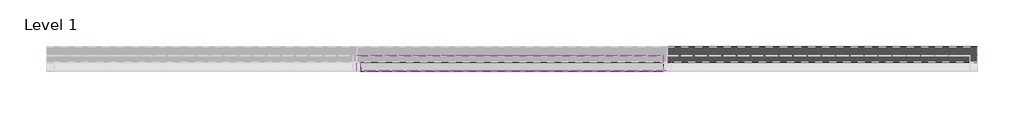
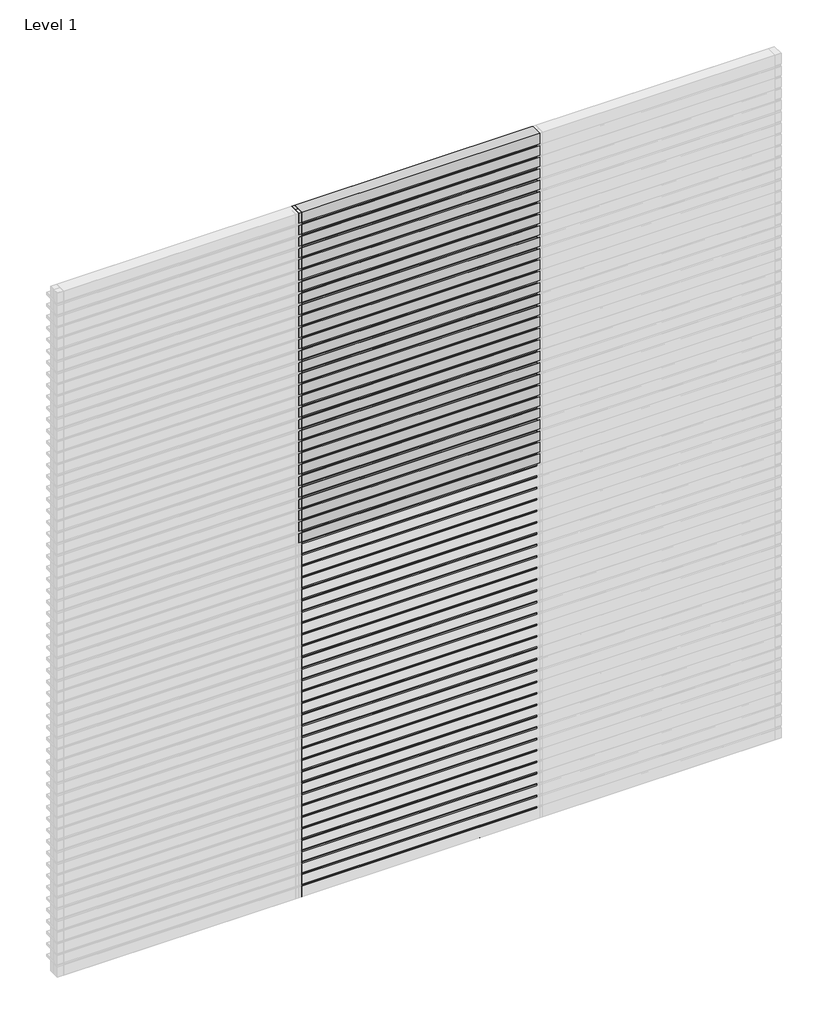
# One storey, part 4 of 6: 89 plates, 39 members.
"""IFC4 building model written with IfcOpenShell, lengths in millimetres."""

from ifc_helpers import new_model, si_unit, origin, place, context, project, spatial, transform, mapped, element, save
from components import rectangular_mullion_30cdfca6, empty_system_panel_empty_51cbbd14, empty_system_panel_empty_86242385, empty_system_panel_empty_f44495d2

model = new_model("IFC4")

# Units and contexts
model_context = context("Model", 3, world=origin())
ifc_project = project(units=[si_unit("LENGTHUNIT", "METRE", prefix="MILLI")], contexts=[model_context])

# Site, building, storey
site = spatial("IfcSite", under=ifc_project)
building = spatial("IfcBuilding", under=site)
storey = spatial("IfcBuildingStorey", under=building, Name="Level 1", Elevation=0.0)

# Members
placement = place(None, origin())
rectangular_mullion_shape = rectangular_mullion_30cdfca6(model_context)
element("IfcMember", 1, ObjectType="Rectangular Mullion : RSen_21_CWM_blade - cubic 100 - 0°_gen_duco projects", at=placement, inside=storey, context=model_context, shape_type="MappedRepresentation", body=[
    mapped(rectangular_mullion_shape, transform((4000.0, 3000.0, 100.0), x_axis=(0.0, 0.0, 1.0), y_axis=(0.0, 1.0, 0.0), z_axis=(-1.0, 0.0, 0.0))),
])
element("IfcMember", 2, ObjectType="Rectangular Mullion : RSen_21_CWM_blade - cubic 100 - 0°_gen_duco projects", at=placement, inside=storey, context=model_context, shape_type="MappedRepresentation", body=[
    mapped(rectangular_mullion_shape, transform((4000.0, 3000.0, 200.0), x_axis=(0.0, 0.0, 1.0), y_axis=(0.0, 1.0, 0.0), z_axis=(-1.0, 0.0, 0.0))),
])
element("IfcMember", 3, ObjectType="Rectangular Mullion : RSen_21_CWM_blade - cubic 100 - 0°_gen_duco projects", at=placement, inside=storey, context=model_context, shape_type="MappedRepresentation", body=[
    mapped(rectangular_mullion_shape, transform((4000.0, 3000.0, 300.0), x_axis=(0.0, 0.0, 1.0), y_axis=(0.0, 1.0, 0.0), z_axis=(-1.0, 0.0, 0.0))),
])
element("IfcMember", 4, ObjectType="Rectangular Mullion : RSen_21_CWM_blade - cubic 100 - 0°_gen_duco projects", at=placement, inside=storey, context=model_context, shape_type="MappedRepresentation", body=[
    mapped(rectangular_mullion_shape, transform((4000.0, 3000.0, 400.0), x_axis=(0.0, 0.0, 1.0), y_axis=(0.0, 1.0, 0.0), z_axis=(-1.0, 0.0, 0.0))),
])
element("IfcMember", 5, ObjectType="Rectangular Mullion : RSen_21_CWM_blade - cubic 100 - 0°_gen_duco projects", at=placement, inside=storey, context=model_context, shape_type="MappedRepresentation", body=[
    mapped(rectangular_mullion_shape, transform((4000.0, 3000.0, 500.0), x_axis=(0.0, 0.0, 1.0), y_axis=(0.0, 1.0, 0.0), z_axis=(-1.0, 0.0, 0.0))),
])
element("IfcMember", 6, ObjectType="Rectangular Mullion : RSen_21_CWM_blade - cubic 100 - 0°_gen_duco projects", at=placement, inside=storey, context=model_context, shape_type="MappedRepresentation", body=[
    mapped(rectangular_mullion_shape, transform((4000.0, 3000.0, 600.0), x_axis=(0.0, 0.0, 1.0), y_axis=(0.0, 1.0, 0.0), z_axis=(-1.0, 0.0, 0.0))),
])
element("IfcMember", 7, ObjectType="Rectangular Mullion : RSen_21_CWM_blade - cubic 100 - 0°_gen_duco projects", at=placement, inside=storey, context=model_context, shape_type="MappedRepresentation", body=[
    mapped(rectangular_mullion_shape, transform((4000.0, 3000.0, 700.0), x_axis=(0.0, 0.0, 1.0), y_axis=(0.0, 1.0, 0.0), z_axis=(-1.0, 0.0, 0.0))),
])
element("IfcMember", 8, ObjectType="Rectangular Mullion : RSen_21_CWM_blade - cubic 100 - 0°_gen_duco projects", at=placement, inside=storey, context=model_context, shape_type="MappedRepresentation", body=[
    mapped(rectangular_mullion_shape, transform((4000.0, 3000.0, 800.0), x_axis=(0.0, 0.0, 1.0), y_axis=(0.0, 1.0, 0.0), z_axis=(-1.0, 0.0, 0.0))),
])
element("IfcMember", 9, ObjectType="Rectangular Mullion : RSen_21_CWM_blade - cubic 100 - 0°_gen_duco projects", at=placement, inside=storey, context=model_context, shape_type="MappedRepresentation", body=[
    mapped(rectangular_mullion_shape, transform((4000.0, 3000.0, 900.0), x_axis=(0.0, 0.0, 1.0), y_axis=(0.0, 1.0, 0.0), z_axis=(-1.0, 0.0, 0.0))),
])
element("IfcMember", 10, ObjectType="Rectangular Mullion : RSen_21_CWM_blade - cubic 100 - 0°_gen_duco projects", at=placement, inside=storey, context=model_context, shape_type="MappedRepresentation", body=[
    mapped(rectangular_mullion_shape, transform((4000.0, 3000.0, 1000.0), x_axis=(0.0, 0.0, 1.0), y_axis=(0.0, 1.0, 0.0), z_axis=(-1.0, 0.0, 0.0))),
])
element("IfcMember", 11, ObjectType="Rectangular Mullion : RSen_21_CWM_blade - cubic 100 - 0°_gen_duco projects", at=placement, inside=storey, context=model_context, shape_type="MappedRepresentation", body=[
    mapped(rectangular_mullion_shape, transform((4000.0, 3000.0, 1100.0), x_axis=(0.0, 0.0, 1.0), y_axis=(0.0, 1.0, 0.0), z_axis=(-1.0, 0.0, 0.0))),
])
element("IfcMember", 12, ObjectType="Rectangular Mullion : RSen_21_CWM_blade - cubic 100 - 0°_gen_duco projects", at=placement, inside=storey, context=model_context, shape_type="MappedRepresentation", body=[
    mapped(rectangular_mullion_shape, transform((4000.0, 3000.0, 1200.0), x_axis=(0.0, 0.0, 1.0), y_axis=(0.0, 1.0, 0.0), z_axis=(-1.0, 0.0, 0.0))),
])
element("IfcMember", 13, ObjectType="Rectangular Mullion : RSen_21_CWM_blade - cubic 100 - 0°_gen_duco projects", at=placement, inside=storey, context=model_context, shape_type="MappedRepresentation", body=[
    mapped(rectangular_mullion_shape, transform((4000.0, 3000.0, 1300.0), x_axis=(0.0, 0.0, 1.0), y_axis=(0.0, 1.0, 0.0), z_axis=(-1.0, 0.0, 0.0))),
])
element("IfcMember", 14, ObjectType="Rectangular Mullion : RSen_21_CWM_blade - cubic 100 - 0°_gen_duco projects", at=placement, inside=storey, context=model_context, shape_type="MappedRepresentation", body=[
    mapped(rectangular_mullion_shape, transform((4000.0, 3000.0, 1400.0), x_axis=(0.0, 0.0, 1.0), y_axis=(0.0, 1.0, 0.0), z_axis=(-1.0, 0.0, 0.0))),
])
element("IfcMember", 15, ObjectType="Rectangular Mullion : RSen_21_CWM_blade - cubic 100 - 0°_gen_duco projects", at=placement, inside=storey, context=model_context, shape_type="MappedRepresentation", body=[
    mapped(rectangular_mullion_shape, transform((4000.0, 3000.0, 1500.0), x_axis=(0.0, 0.0, 1.0), y_axis=(0.0, 1.0, 0.0), z_axis=(-1.0, 0.0, 0.0))),
])
element("IfcMember", 16, ObjectType="Rectangular Mullion : RSen_21_CWM_blade - cubic 100 - 0°_gen_duco projects", at=placement, inside=storey, context=model_context, shape_type="MappedRepresentation", body=[
    mapped(rectangular_mullion_shape, transform((4000.0, 3000.0, 1600.0), x_axis=(0.0, 0.0, 1.0), y_axis=(0.0, 1.0, 0.0), z_axis=(-1.0, 0.0, 0.0))),
])
element("IfcMember", 17, ObjectType="Rectangular Mullion : RSen_21_CWM_blade - cubic 100 - 0°_gen_duco projects", at=placement, inside=storey, context=model_context, shape_type="MappedRepresentation", body=[
    mapped(rectangular_mullion_shape, transform((4000.0, 3000.0, 1700.0), x_axis=(0.0, 0.0, 1.0), y_axis=(0.0, 1.0, 0.0), z_axis=(-1.0, 0.0, 0.0))),
])
element("IfcMember", 18, ObjectType="Rectangular Mullion : RSen_21_CWM_blade - cubic 100 - 0°_gen_duco projects", at=placement, inside=storey, context=model_context, shape_type="MappedRepresentation", body=[
    mapped(rectangular_mullion_shape, transform((4000.0, 3000.0, 1800.0), x_axis=(0.0, 0.0, 1.0), y_axis=(0.0, 1.0, 0.0), z_axis=(-1.0, 0.0, 0.0))),
])
element("IfcMember", 19, ObjectType="Rectangular Mullion : RSen_21_CWM_blade - cubic 100 - 0°_gen_duco projects", at=placement, inside=storey, context=model_context, shape_type="MappedRepresentation", body=[
    mapped(rectangular_mullion_shape, transform((4000.0, 3000.0, 1900.0), x_axis=(0.0, 0.0, 1.0), y_axis=(0.0, 1.0, 0.0), z_axis=(-1.0, 0.0, 0.0))),
])
element("IfcMember", 20, ObjectType="Rectangular Mullion : RSen_21_CWM_blade - cubic 100 - 0°_gen_duco projects", at=placement, inside=storey, context=model_context, shape_type="MappedRepresentation", body=[
    mapped(rectangular_mullion_shape, transform((4000.0, 3000.0, 2000.0), x_axis=(0.0, 0.0, 1.0), y_axis=(0.0, 1.0, 0.0), z_axis=(-1.0, 0.0, 0.0))),
])
element("IfcMember", 21, ObjectType="Rectangular Mullion : RSen_21_CWM_blade - cubic 100 - 0°_gen_duco projects", at=placement, inside=storey, context=model_context, shape_type="MappedRepresentation", body=[
    mapped(rectangular_mullion_shape, transform((4000.0, 3000.0, 2100.0), x_axis=(0.0, 0.0, 1.0), y_axis=(0.0, 1.0, 0.0), z_axis=(-1.0, 0.0, 0.0))),
])
element("IfcMember", 22, ObjectType="Rectangular Mullion : RSen_21_CWM_blade - cubic 100 - 0°_gen_duco projects", at=placement, inside=storey, context=model_context, shape_type="MappedRepresentation", body=[
    mapped(rectangular_mullion_shape, transform((4000.0, 3000.0, 2200.0), x_axis=(0.0, 0.0, 1.0), y_axis=(0.0, 1.0, 0.0), z_axis=(-1.0, 0.0, 0.0))),
])
element("IfcMember", 23, ObjectType="Rectangular Mullion : RSen_21_CWM_blade - cubic 100 - 0°_gen_duco projects", at=placement, inside=storey, context=model_context, shape_type="MappedRepresentation", body=[
    mapped(rectangular_mullion_shape, transform((4000.0, 3000.0, 2300.0), x_axis=(0.0, 0.0, 1.0), y_axis=(0.0, 1.0, 0.0), z_axis=(-1.0, 0.0, 0.0))),
])
element("IfcMember", 24, ObjectType="Rectangular Mullion : RSen_21_CWM_blade - cubic 100 - 0°_gen_duco projects", at=placement, inside=storey, context=model_context, shape_type="MappedRepresentation", body=[
    mapped(rectangular_mullion_shape, transform((4000.0, 3000.0, 2400.0), x_axis=(0.0, 0.0, 1.0), y_axis=(0.0, 1.0, 0.0), z_axis=(-1.0, 0.0, 0.0))),
])
element("IfcMember", 25, ObjectType="Rectangular Mullion : RSen_21_CWM_blade - cubic 100 - 0°_gen_duco projects", at=placement, inside=storey, context=model_context, shape_type="MappedRepresentation", body=[
    mapped(rectangular_mullion_shape, transform((4000.0, 3000.0, 2500.0), x_axis=(0.0, 0.0, 1.0), y_axis=(0.0, 1.0, 0.0), z_axis=(-1.0, 0.0, 0.0))),
])
element("IfcMember", 26, ObjectType="Rectangular Mullion : RSen_21_CWM_blade - cubic 100 - 0°_gen_duco projects", at=placement, inside=storey, context=model_context, shape_type="MappedRepresentation", body=[
    mapped(rectangular_mullion_shape, transform((4000.0, 3000.0, 2600.0), x_axis=(0.0, 0.0, 1.0), y_axis=(0.0, 1.0, 0.0), z_axis=(-1.0, 0.0, 0.0))),
])
element("IfcMember", 27, ObjectType="Rectangular Mullion : RSen_21_CWM_blade - cubic 100 - 0°_gen_duco projects", at=placement, inside=storey, context=model_context, shape_type="MappedRepresentation", body=[
    mapped(rectangular_mullion_shape, transform((4000.0, 3000.0, 2700.0), x_axis=(0.0, 0.0, 1.0), y_axis=(0.0, 1.0, 0.0), z_axis=(-1.0, 0.0, 0.0))),
])
element("IfcMember", 28, ObjectType="Rectangular Mullion : RSen_21_CWM_blade - cubic 100 - 0°_gen_duco projects", at=placement, inside=storey, context=model_context, shape_type="MappedRepresentation", body=[
    mapped(rectangular_mullion_shape, transform((4000.0, 3000.0, 2800.0), x_axis=(0.0, 0.0, 1.0), y_axis=(0.0, 1.0, 0.0), z_axis=(-1.0, 0.0, 0.0))),
])
element("IfcMember", 29, ObjectType="Rectangular Mullion : RSen_21_CWM_blade - cubic 100 - 0°_gen_duco projects", at=placement, inside=storey, context=model_context, shape_type="MappedRepresentation", body=[
    mapped(rectangular_mullion_shape, transform((4000.0, 3000.0, 2900.0), x_axis=(0.0, 0.0, 1.0), y_axis=(0.0, 1.0, 0.0), z_axis=(-1.0, 0.0, 0.0))),
])
element("IfcMember", 30, ObjectType="Rectangular Mullion : RSen_21_CWM_blade - cubic 100 - 0°_gen_duco projects", at=placement, inside=storey, context=model_context, shape_type="MappedRepresentation", body=[
    mapped(rectangular_mullion_shape, transform((4000.0, 3000.0, 3000.0), x_axis=(0.0, 0.0, 1.0), y_axis=(0.0, 1.0, 0.0), z_axis=(-1.0, 0.0, 0.0))),
])
element("IfcMember", 31, ObjectType="Rectangular Mullion : RSen_21_CWM_blade - cubic 100 - 0°_gen_duco projects", at=placement, inside=storey, context=model_context, shape_type="MappedRepresentation", body=[
    mapped(rectangular_mullion_shape, transform((4000.0, 3000.0, 3100.0), x_axis=(0.0, 0.0, 1.0), y_axis=(0.0, 1.0, 0.0), z_axis=(-1.0, 0.0, 0.0))),
])
element("IfcMember", 32, ObjectType="Rectangular Mullion : RSen_21_CWM_blade - cubic 100 - 0°_gen_duco projects", at=placement, inside=storey, context=model_context, shape_type="MappedRepresentation", body=[
    mapped(rectangular_mullion_shape, transform((4000.0, 3000.0, 3200.0), x_axis=(0.0, 0.0, 1.0), y_axis=(0.0, 1.0, 0.0), z_axis=(-1.0, 0.0, 0.0))),
])
element("IfcMember", 33, ObjectType="Rectangular Mullion : RSen_21_CWM_blade - cubic 100 - 0°_gen_duco projects", at=placement, inside=storey, context=model_context, shape_type="MappedRepresentation", body=[
    mapped(rectangular_mullion_shape, transform((4000.0, 3000.0, 3300.0), x_axis=(0.0, 0.0, 1.0), y_axis=(0.0, 1.0, 0.0), z_axis=(-1.0, 0.0, 0.0))),
])
element("IfcMember", 34, ObjectType="Rectangular Mullion : RSen_21_CWM_blade - cubic 100 - 0°_gen_duco projects", at=placement, inside=storey, context=model_context, shape_type="MappedRepresentation", body=[
    mapped(rectangular_mullion_shape, transform((4000.0, 3000.0, 3400.0), x_axis=(0.0, 0.0, 1.0), y_axis=(0.0, 1.0, 0.0), z_axis=(-1.0, 0.0, 0.0))),
])
element("IfcMember", 35, ObjectType="Rectangular Mullion : RSen_21_CWM_blade - cubic 100 - 0°_gen_duco projects", at=placement, inside=storey, context=model_context, shape_type="MappedRepresentation", body=[
    mapped(rectangular_mullion_shape, transform((4000.0, 3000.0, 3500.0), x_axis=(0.0, 0.0, 1.0), y_axis=(0.0, 1.0, 0.0), z_axis=(-1.0, 0.0, 0.0))),
])
element("IfcMember", 36, ObjectType="Rectangular Mullion : RSen_21_CWM_blade - cubic 100 - 0°_gen_duco projects", at=placement, inside=storey, context=model_context, shape_type="MappedRepresentation", body=[
    mapped(rectangular_mullion_shape, transform((4000.0, 3000.0, 3600.0), x_axis=(0.0, 0.0, 1.0), y_axis=(0.0, 1.0, 0.0), z_axis=(-1.0, 0.0, 0.0))),
])
element("IfcMember", 37, ObjectType="Rectangular Mullion : RSen_21_CWM_blade - cubic 100 - 0°_gen_duco projects", at=placement, inside=storey, context=model_context, shape_type="MappedRepresentation", body=[
    mapped(rectangular_mullion_shape, transform((4000.0, 3000.0, 3700.0), x_axis=(0.0, 0.0, 1.0), y_axis=(0.0, 1.0, 0.0), z_axis=(-1.0, 0.0, 0.0))),
])
element("IfcMember", 38, ObjectType="Rectangular Mullion : RSen_21_CWM_blade - cubic 100 - 0°_gen_duco projects", at=placement, inside=storey, context=model_context, shape_type="MappedRepresentation", body=[
    mapped(rectangular_mullion_shape, transform((4000.0, 3000.0, 3800.0), x_axis=(0.0, 0.0, 1.0), y_axis=(0.0, 1.0, 0.0), z_axis=(-1.0, 0.0, 0.0))),
])
element("IfcMember", 39, ObjectType="Rectangular Mullion : RSen_21_CWM_blade - cubic 100 - 0°_gen_duco projects", at=placement, inside=storey, context=model_context, shape_type="MappedRepresentation", body=[
    mapped(rectangular_mullion_shape, transform((4000.0, 3000.0, 3900.0), x_axis=(0.0, 0.0, 1.0), y_axis=(0.0, 1.0, 0.0), z_axis=(-1.0, 0.0, 0.0))),
])

# Plates
empty_system_panel_empty_shape = empty_system_panel_empty_51cbbd14(model_context)
element("IfcPlate", 40, ObjectType="Empty System Panel : Empty", at=placement, inside=storey, context=model_context, shape_type="MappedRepresentation", body=[
    mapped(empty_system_panel_empty_shape, transform((3000.0, 3000.0, 5910.0), x_axis=(-1.0, 0.0, 0.0), y_axis=(0.0, -1.0, 0.0), z_axis=(0.0, 0.0, 1.0))),
])
empty_system_panel_empty_2_shape = empty_system_panel_empty_86242385(model_context)
element("IfcPlate", 41, ObjectType="Empty System Panel : Empty", at=placement, inside=storey, context=model_context, shape_type="MappedRepresentation", body=[
    mapped(empty_system_panel_empty_2_shape, transform((3000.0, 3000.0, 3110.0), x_axis=(-1.0, 0.0, 0.0), y_axis=(0.0, -1.0, 0.0), z_axis=(0.0, 0.0, 1.0))),
])
element("IfcPlate", 42, ObjectType="Empty System Panel : Empty", at=placement, inside=storey, context=model_context, shape_type="MappedRepresentation", body=[
    mapped(empty_system_panel_empty_2_shape, transform((3000.0, 3000.0, 3210.0), x_axis=(-1.0, 0.0, 0.0), y_axis=(0.0, -1.0, 0.0), z_axis=(0.0, 0.0, 1.0))),
])
element("IfcPlate", 43, ObjectType="Empty System Panel : Empty", at=placement, inside=storey, context=model_context, shape_type="MappedRepresentation", body=[
    mapped(empty_system_panel_empty_2_shape, transform((3000.0, 3000.0, 3310.0), x_axis=(-1.0, 0.0, 0.0), y_axis=(0.0, -1.0, 0.0), z_axis=(0.0, 0.0, 1.0))),
])
element("IfcPlate", 44, ObjectType="Empty System Panel : Empty", at=placement, inside=storey, context=model_context, shape_type="MappedRepresentation", body=[
    mapped(empty_system_panel_empty_2_shape, transform((3000.0, 3000.0, 3410.0), x_axis=(-1.0, 0.0, 0.0), y_axis=(0.0, -1.0, 0.0), z_axis=(0.0, 0.0, 1.0))),
])
element("IfcPlate", 45, ObjectType="Empty System Panel : Empty", at=placement, inside=storey, context=model_context, shape_type="MappedRepresentation", body=[
    mapped(empty_system_panel_empty_2_shape, transform((3000.0, 3000.0, 3510.0), x_axis=(-1.0, 0.0, 0.0), y_axis=(0.0, -1.0, 0.0), z_axis=(0.0, 0.0, 1.0))),
])
element("IfcPlate", 46, ObjectType="Empty System Panel : Empty", at=placement, inside=storey, context=model_context, shape_type="MappedRepresentation", body=[
    mapped(empty_system_panel_empty_2_shape, transform((3000.0, 3000.0, 3610.0), x_axis=(-1.0, 0.0, 0.0), y_axis=(0.0, -1.0, 0.0), z_axis=(0.0, 0.0, 1.0))),
])
element("IfcPlate", 47, ObjectType="Empty System Panel : Empty", at=placement, inside=storey, context=model_context, shape_type="MappedRepresentation", body=[
    mapped(empty_system_panel_empty_2_shape, transform((3000.0, 3000.0, 3710.0), x_axis=(-1.0, 0.0, 0.0), y_axis=(0.0, -1.0, 0.0), z_axis=(0.0, 0.0, 1.0))),
])
element("IfcPlate", 48, ObjectType="Empty System Panel : Empty", at=placement, inside=storey, context=model_context, shape_type="MappedRepresentation", body=[
    mapped(empty_system_panel_empty_2_shape, transform((3000.0, 3000.0, 3810.0), x_axis=(-1.0, 0.0, 0.0), y_axis=(0.0, -1.0, 0.0), z_axis=(0.0, 0.0, 1.0))),
])
element("IfcPlate", 49, ObjectType="Empty System Panel : Empty", at=placement, inside=storey, context=model_context, shape_type="MappedRepresentation", body=[
    mapped(empty_system_panel_empty_2_shape, transform((3000.0, 3000.0, 3910.0), x_axis=(-1.0, 0.0, 0.0), y_axis=(0.0, -1.0, 0.0), z_axis=(0.0, 0.0, 1.0))),
])
element("IfcPlate", 50, ObjectType="Empty System Panel : Empty", at=placement, inside=storey, context=model_context, shape_type="MappedRepresentation", body=[
    mapped(empty_system_panel_empty_2_shape, transform((3000.0, 3000.0, 4010.0), x_axis=(-1.0, 0.0, 0.0), y_axis=(0.0, -1.0, 0.0), z_axis=(0.0, 0.0, 1.0))),
])
element("IfcPlate", 51, ObjectType="Empty System Panel : Empty", at=placement, inside=storey, context=model_context, shape_type="MappedRepresentation", body=[
    mapped(empty_system_panel_empty_2_shape, transform((3000.0, 3000.0, 4110.0), x_axis=(-1.0, 0.0, 0.0), y_axis=(0.0, -1.0, 0.0), z_axis=(0.0, 0.0, 1.0))),
])
element("IfcPlate", 52, ObjectType="Empty System Panel : Empty", at=placement, inside=storey, context=model_context, shape_type="MappedRepresentation", body=[
    mapped(empty_system_panel_empty_2_shape, transform((3000.0, 3000.0, 4210.0), x_axis=(-1.0, 0.0, 0.0), y_axis=(0.0, -1.0, 0.0), z_axis=(0.0, 0.0, 1.0))),
])
element("IfcPlate", 53, ObjectType="Empty System Panel : Empty", at=placement, inside=storey, context=model_context, shape_type="MappedRepresentation", body=[
    mapped(empty_system_panel_empty_2_shape, transform((3000.0, 3000.0, 4310.0), x_axis=(-1.0, 0.0, 0.0), y_axis=(0.0, -1.0, 0.0), z_axis=(0.0, 0.0, 1.0))),
])
element("IfcPlate", 54, ObjectType="Empty System Panel : Empty", at=placement, inside=storey, context=model_context, shape_type="MappedRepresentation", body=[
    mapped(empty_system_panel_empty_2_shape, transform((3000.0, 3000.0, 4410.0), x_axis=(-1.0, 0.0, 0.0), y_axis=(0.0, -1.0, 0.0), z_axis=(0.0, 0.0, 1.0))),
])
element("IfcPlate", 55, ObjectType="Empty System Panel : Empty", at=placement, inside=storey, context=model_context, shape_type="MappedRepresentation", body=[
    mapped(empty_system_panel_empty_2_shape, transform((3000.0, 3000.0, 4510.0), x_axis=(-1.0, 0.0, 0.0), y_axis=(0.0, -1.0, 0.0), z_axis=(0.0, 0.0, 1.0))),
])
element("IfcPlate", 56, ObjectType="Empty System Panel : Empty", at=placement, inside=storey, context=model_context, shape_type="MappedRepresentation", body=[
    mapped(empty_system_panel_empty_2_shape, transform((3000.0, 3000.0, 4610.0), x_axis=(-1.0, 0.0, 0.0), y_axis=(0.0, -1.0, 0.0), z_axis=(0.0, 0.0, 1.0))),
])
element("IfcPlate", 57, ObjectType="Empty System Panel : Empty", at=placement, inside=storey, context=model_context, shape_type="MappedRepresentation", body=[
    mapped(empty_system_panel_empty_2_shape, transform((3000.0, 3000.0, 4710.0), x_axis=(-1.0, 0.0, 0.0), y_axis=(0.0, -1.0, 0.0), z_axis=(0.0, 0.0, 1.0))),
])
element("IfcPlate", 58, ObjectType="Empty System Panel : Empty", at=placement, inside=storey, context=model_context, shape_type="MappedRepresentation", body=[
    mapped(empty_system_panel_empty_2_shape, transform((3000.0, 3000.0, 4810.0), x_axis=(-1.0, 0.0, 0.0), y_axis=(0.0, -1.0, 0.0), z_axis=(0.0, 0.0, 1.0))),
])
element("IfcPlate", 59, ObjectType="Empty System Panel : Empty", at=placement, inside=storey, context=model_context, shape_type="MappedRepresentation", body=[
    mapped(empty_system_panel_empty_2_shape, transform((3000.0, 3000.0, 4910.0), x_axis=(-1.0, 0.0, 0.0), y_axis=(0.0, -1.0, 0.0), z_axis=(0.0, 0.0, 1.0))),
])
element("IfcPlate", 60, ObjectType="Empty System Panel : Empty", at=placement, inside=storey, context=model_context, shape_type="MappedRepresentation", body=[
    mapped(empty_system_panel_empty_2_shape, transform((3000.0, 3000.0, 5010.0), x_axis=(-1.0, 0.0, 0.0), y_axis=(0.0, -1.0, 0.0), z_axis=(0.0, 0.0, 1.0))),
])
element("IfcPlate", 61, ObjectType="Empty System Panel : Empty", at=placement, inside=storey, context=model_context, shape_type="MappedRepresentation", body=[
    mapped(empty_system_panel_empty_2_shape, transform((3000.0, 3000.0, 5110.0), x_axis=(-1.0, 0.0, 0.0), y_axis=(0.0, -1.0, 0.0), z_axis=(0.0, 0.0, 1.0))),
])
element("IfcPlate", 62, ObjectType="Empty System Panel : Empty", at=placement, inside=storey, context=model_context, shape_type="MappedRepresentation", body=[
    mapped(empty_system_panel_empty_2_shape, transform((3000.0, 3000.0, 5210.0), x_axis=(-1.0, 0.0, 0.0), y_axis=(0.0, -1.0, 0.0), z_axis=(0.0, 0.0, 1.0))),
])
element("IfcPlate", 63, ObjectType="Empty System Panel : Empty", at=placement, inside=storey, context=model_context, shape_type="MappedRepresentation", body=[
    mapped(empty_system_panel_empty_2_shape, transform((3000.0, 3000.0, 5310.0), x_axis=(-1.0, 0.0, 0.0), y_axis=(0.0, -1.0, 0.0), z_axis=(0.0, 0.0, 1.0))),
])
element("IfcPlate", 64, ObjectType="Empty System Panel : Empty", at=placement, inside=storey, context=model_context, shape_type="MappedRepresentation", body=[
    mapped(empty_system_panel_empty_2_shape, transform((3000.0, 3000.0, 5410.0), x_axis=(-1.0, 0.0, 0.0), y_axis=(0.0, -1.0, 0.0), z_axis=(0.0, 0.0, 1.0))),
])
element("IfcPlate", 65, ObjectType="Empty System Panel : Empty", at=placement, inside=storey, context=model_context, shape_type="MappedRepresentation", body=[
    mapped(empty_system_panel_empty_2_shape, transform((3000.0, 3000.0, 5510.0), x_axis=(-1.0, 0.0, 0.0), y_axis=(0.0, -1.0, 0.0), z_axis=(0.0, 0.0, 1.0))),
])
element("IfcPlate", 66, ObjectType="Empty System Panel : Empty", at=placement, inside=storey, context=model_context, shape_type="MappedRepresentation", body=[
    mapped(empty_system_panel_empty_2_shape, transform((3000.0, 3000.0, 5610.0), x_axis=(-1.0, 0.0, 0.0), y_axis=(0.0, -1.0, 0.0), z_axis=(0.0, 0.0, 1.0))),
])
element("IfcPlate", 67, ObjectType="Empty System Panel : Empty", at=placement, inside=storey, context=model_context, shape_type="MappedRepresentation", body=[
    mapped(empty_system_panel_empty_2_shape, transform((3000.0, 3000.0, 5710.0), x_axis=(-1.0, 0.0, 0.0), y_axis=(0.0, -1.0, 0.0), z_axis=(0.0, 0.0, 1.0))),
])
element("IfcPlate", 68, ObjectType="Empty System Panel : Empty", at=placement, inside=storey, context=model_context, shape_type="MappedRepresentation", body=[
    mapped(empty_system_panel_empty_2_shape, transform((3000.0, 3000.0, 5810.0), x_axis=(-1.0, 0.0, 0.0), y_axis=(0.0, -1.0, 0.0), z_axis=(0.0, 0.0, 1.0))),
])
empty_system_panel_empty_3_shape = empty_system_panel_empty_f44495d2(model_context)
element("IfcPlate", 69, ObjectType="Empty System Panel : Empty", at=placement, inside=storey, context=model_context, shape_type="MappedRepresentation", body=[
    mapped(empty_system_panel_empty_3_shape, transform((3000.0, 3000.0, 0.0), x_axis=(-1.0, 0.0, 0.0), y_axis=(0.0, -1.0, 0.0), z_axis=(0.0, 0.0, 1.0))),
])
element("IfcPlate", 70, ObjectType="Empty System Panel : Empty", at=placement, inside=storey, context=model_context, shape_type="MappedRepresentation", body=[
    mapped(empty_system_panel_empty_3_shape, transform((3000.0, 3000.0, 100.0), x_axis=(-1.0, 0.0, 0.0), y_axis=(0.0, -1.0, 0.0), z_axis=(0.0, 0.0, 1.0))),
])
element("IfcPlate", 71, ObjectType="Empty System Panel : Empty", at=placement, inside=storey, context=model_context, shape_type="MappedRepresentation", body=[
    mapped(empty_system_panel_empty_3_shape, transform((3000.0, 3000.0, 200.0), x_axis=(-1.0, 0.0, 0.0), y_axis=(0.0, -1.0, 0.0), z_axis=(0.0, 0.0, 1.0))),
])
element("IfcPlate", 72, ObjectType="Empty System Panel : Empty", at=placement, inside=storey, context=model_context, shape_type="MappedRepresentation", body=[
    mapped(empty_system_panel_empty_3_shape, transform((3000.0, 3000.0, 300.0), x_axis=(-1.0, 0.0, 0.0), y_axis=(0.0, -1.0, 0.0), z_axis=(0.0, 0.0, 1.0))),
])
element("IfcPlate", 73, ObjectType="Empty System Panel : Empty", at=placement, inside=storey, context=model_context, shape_type="MappedRepresentation", body=[
    mapped(empty_system_panel_empty_3_shape, transform((3000.0, 3000.0, 400.0), x_axis=(-1.0, 0.0, 0.0), y_axis=(0.0, -1.0, 0.0), z_axis=(0.0, 0.0, 1.0))),
])
element("IfcPlate", 74, ObjectType="Empty System Panel : Empty", at=placement, inside=storey, context=model_context, shape_type="MappedRepresentation", body=[
    mapped(empty_system_panel_empty_3_shape, transform((3000.0, 3000.0, 500.0), x_axis=(-1.0, 0.0, 0.0), y_axis=(0.0, -1.0, 0.0), z_axis=(0.0, 0.0, 1.0))),
])
element("IfcPlate", 75, ObjectType="Empty System Panel : Empty", at=placement, inside=storey, context=model_context, shape_type="MappedRepresentation", body=[
    mapped(empty_system_panel_empty_3_shape, transform((3000.0, 3000.0, 600.0), x_axis=(-1.0, 0.0, 0.0), y_axis=(0.0, -1.0, 0.0), z_axis=(0.0, 0.0, 1.0))),
])
element("IfcPlate", 76, ObjectType="Empty System Panel : Empty", at=placement, inside=storey, context=model_context, shape_type="MappedRepresentation", body=[
    mapped(empty_system_panel_empty_3_shape, transform((3000.0, 3000.0, 700.0), x_axis=(-1.0, 0.0, 0.0), y_axis=(0.0, -1.0, 0.0), z_axis=(0.0, 0.0, 1.0))),
])
element("IfcPlate", 77, ObjectType="Empty System Panel : Empty", at=placement, inside=storey, context=model_context, shape_type="MappedRepresentation", body=[
    mapped(empty_system_panel_empty_3_shape, transform((3000.0, 3000.0, 800.0), x_axis=(-1.0, 0.0, 0.0), y_axis=(0.0, -1.0, 0.0), z_axis=(0.0, 0.0, 1.0))),
])
element("IfcPlate", 78, ObjectType="Empty System Panel : Empty", at=placement, inside=storey, context=model_context, shape_type="MappedRepresentation", body=[
    mapped(empty_system_panel_empty_3_shape, transform((3000.0, 3000.0, 900.0), x_axis=(-1.0, 0.0, 0.0), y_axis=(0.0, -1.0, 0.0), z_axis=(0.0, 0.0, 1.0))),
])
element("IfcPlate", 79, ObjectType="Empty System Panel : Empty", at=placement, inside=storey, context=model_context, shape_type="MappedRepresentation", body=[
    mapped(empty_system_panel_empty_3_shape, transform((3000.0, 3000.0, 1000.0), x_axis=(-1.0, 0.0, 0.0), y_axis=(0.0, -1.0, 0.0), z_axis=(0.0, 0.0, 1.0))),
])
element("IfcPlate", 80, ObjectType="Empty System Panel : Empty", at=placement, inside=storey, context=model_context, shape_type="MappedRepresentation", body=[
    mapped(empty_system_panel_empty_3_shape, transform((3000.0, 3000.0, 1100.0), x_axis=(-1.0, 0.0, 0.0), y_axis=(0.0, -1.0, 0.0), z_axis=(0.0, 0.0, 1.0))),
])
element("IfcPlate", 81, ObjectType="Empty System Panel : Empty", at=placement, inside=storey, context=model_context, shape_type="MappedRepresentation", body=[
    mapped(empty_system_panel_empty_3_shape, transform((3000.0, 3000.0, 1200.0), x_axis=(-1.0, 0.0, 0.0), y_axis=(0.0, -1.0, 0.0), z_axis=(0.0, 0.0, 1.0))),
])
element("IfcPlate", 82, ObjectType="Empty System Panel : Empty", at=placement, inside=storey, context=model_context, shape_type="MappedRepresentation", body=[
    mapped(empty_system_panel_empty_3_shape, transform((3000.0, 3000.0, 1300.0), x_axis=(-1.0, 0.0, 0.0), y_axis=(0.0, -1.0, 0.0), z_axis=(0.0, 0.0, 1.0))),
])
element("IfcPlate", 83, ObjectType="Empty System Panel : Empty", at=placement, inside=storey, context=model_context, shape_type="MappedRepresentation", body=[
    mapped(empty_system_panel_empty_3_shape, transform((3000.0, 3000.0, 1400.0), x_axis=(-1.0, 0.0, 0.0), y_axis=(0.0, -1.0, 0.0), z_axis=(0.0, 0.0, 1.0))),
])
element("IfcPlate", 84, ObjectType="Empty System Panel : Empty", at=placement, inside=storey, context=model_context, shape_type="MappedRepresentation", body=[
    mapped(empty_system_panel_empty_3_shape, transform((3000.0, 3000.0, 1500.0), x_axis=(-1.0, 0.0, 0.0), y_axis=(0.0, -1.0, 0.0), z_axis=(0.0, 0.0, 1.0))),
])
element("IfcPlate", 85, ObjectType="Empty System Panel : Empty", at=placement, inside=storey, context=model_context, shape_type="MappedRepresentation", body=[
    mapped(empty_system_panel_empty_3_shape, transform((3000.0, 3000.0, 1600.0), x_axis=(-1.0, 0.0, 0.0), y_axis=(0.0, -1.0, 0.0), z_axis=(0.0, 0.0, 1.0))),
])
element("IfcPlate", 86, ObjectType="Empty System Panel : Empty", at=placement, inside=storey, context=model_context, shape_type="MappedRepresentation", body=[
    mapped(empty_system_panel_empty_3_shape, transform((3000.0, 3000.0, 1700.0), x_axis=(-1.0, 0.0, 0.0), y_axis=(0.0, -1.0, 0.0), z_axis=(0.0, 0.0, 1.0))),
])
element("IfcPlate", 87, ObjectType="Empty System Panel : Empty", at=placement, inside=storey, context=model_context, shape_type="MappedRepresentation", body=[
    mapped(empty_system_panel_empty_3_shape, transform((3000.0, 3000.0, 1800.0), x_axis=(-1.0, 0.0, 0.0), y_axis=(0.0, -1.0, 0.0), z_axis=(0.0, 0.0, 1.0))),
])
element("IfcPlate", 88, ObjectType="Empty System Panel : Empty", at=placement, inside=storey, context=model_context, shape_type="MappedRepresentation", body=[
    mapped(empty_system_panel_empty_3_shape, transform((3000.0, 3000.0, 1900.0), x_axis=(-1.0, 0.0, 0.0), y_axis=(0.0, -1.0, 0.0), z_axis=(0.0, 0.0, 1.0))),
])
element("IfcPlate", 89, ObjectType="Empty System Panel : Empty", at=placement, inside=storey, context=model_context, shape_type="MappedRepresentation", body=[
    mapped(empty_system_panel_empty_3_shape, transform((3000.0, 3000.0, 2000.0), x_axis=(-1.0, 0.0, 0.0), y_axis=(0.0, -1.0, 0.0), z_axis=(0.0, 0.0, 1.0))),
])
element("IfcPlate", 90, ObjectType="Empty System Panel : Empty", at=placement, inside=storey, context=model_context, shape_type="MappedRepresentation", body=[
    mapped(empty_system_panel_empty_3_shape, transform((3000.0, 3000.0, 2100.0), x_axis=(-1.0, 0.0, 0.0), y_axis=(0.0, -1.0, 0.0), z_axis=(0.0, 0.0, 1.0))),
])
element("IfcPlate", 91, ObjectType="Empty System Panel : Empty", at=placement, inside=storey, context=model_context, shape_type="MappedRepresentation", body=[
    mapped(empty_system_panel_empty_3_shape, transform((3000.0, 3000.0, 2200.0), x_axis=(-1.0, 0.0, 0.0), y_axis=(0.0, -1.0, 0.0), z_axis=(0.0, 0.0, 1.0))),
])
element("IfcPlate", 92, ObjectType="Empty System Panel : Empty", at=placement, inside=storey, context=model_context, shape_type="MappedRepresentation", body=[
    mapped(empty_system_panel_empty_3_shape, transform((3000.0, 3000.0, 2300.0), x_axis=(-1.0, 0.0, 0.0), y_axis=(0.0, -1.0, 0.0), z_axis=(0.0, 0.0, 1.0))),
])
element("IfcPlate", 93, ObjectType="Empty System Panel : Empty", at=placement, inside=storey, context=model_context, shape_type="MappedRepresentation", body=[
    mapped(empty_system_panel_empty_3_shape, transform((3000.0, 3000.0, 2400.0), x_axis=(-1.0, 0.0, 0.0), y_axis=(0.0, -1.0, 0.0), z_axis=(0.0, 0.0, 1.0))),
])
element("IfcPlate", 94, ObjectType="Empty System Panel : Empty", at=placement, inside=storey, context=model_context, shape_type="MappedRepresentation", body=[
    mapped(empty_system_panel_empty_3_shape, transform((3000.0, 3000.0, 2500.0), x_axis=(-1.0, 0.0, 0.0), y_axis=(0.0, -1.0, 0.0), z_axis=(0.0, 0.0, 1.0))),
])
element("IfcPlate", 95, ObjectType="Empty System Panel : Empty", at=placement, inside=storey, context=model_context, shape_type="MappedRepresentation", body=[
    mapped(empty_system_panel_empty_3_shape, transform((3000.0, 3000.0, 2600.0), x_axis=(-1.0, 0.0, 0.0), y_axis=(0.0, -1.0, 0.0), z_axis=(0.0, 0.0, 1.0))),
])
element("IfcPlate", 96, ObjectType="Empty System Panel : Empty", at=placement, inside=storey, context=model_context, shape_type="MappedRepresentation", body=[
    mapped(empty_system_panel_empty_3_shape, transform((3000.0, 3000.0, 2700.0), x_axis=(-1.0, 0.0, 0.0), y_axis=(0.0, -1.0, 0.0), z_axis=(0.0, 0.0, 1.0))),
])
element("IfcPlate", 97, ObjectType="Empty System Panel : Empty", at=placement, inside=storey, context=model_context, shape_type="MappedRepresentation", body=[
    mapped(empty_system_panel_empty_3_shape, transform((3000.0, 3000.0, 2800.0), x_axis=(-1.0, 0.0, 0.0), y_axis=(0.0, -1.0, 0.0), z_axis=(0.0, 0.0, 1.0))),
])
element("IfcPlate", 98, ObjectType="Empty System Panel : Empty", at=placement, inside=storey, context=model_context, shape_type="MappedRepresentation", body=[
    mapped(empty_system_panel_empty_3_shape, transform((3000.0, 3000.0, 2900.0), x_axis=(-1.0, 0.0, 0.0), y_axis=(0.0, -1.0, 0.0), z_axis=(0.0, 0.0, 1.0))),
])
element("IfcPlate", 99, ObjectType="Empty System Panel : Empty", at=placement, inside=storey, context=model_context, shape_type="MappedRepresentation", body=[
    mapped(empty_system_panel_empty_3_shape, transform((3000.0, 3000.0, 3000.0), x_axis=(-1.0, 0.0, 0.0), y_axis=(0.0, -1.0, 0.0), z_axis=(0.0, 0.0, 1.0))),
])
element("IfcPlate", 100, ObjectType="Empty System Panel : Empty", at=placement, inside=storey, context=model_context, shape_type="MappedRepresentation", body=[
    mapped(empty_system_panel_empty_3_shape, transform((3000.0, 3000.0, 3100.0), x_axis=(-1.0, 0.0, 0.0), y_axis=(0.0, -1.0, 0.0), z_axis=(0.0, 0.0, 1.0))),
])
element("IfcPlate", 101, ObjectType="Empty System Panel : Empty", at=placement, inside=storey, context=model_context, shape_type="MappedRepresentation", body=[
    mapped(empty_system_panel_empty_3_shape, transform((3000.0, 3000.0, 3200.0), x_axis=(-1.0, 0.0, 0.0), y_axis=(0.0, -1.0, 0.0), z_axis=(0.0, 0.0, 1.0))),
])
element("IfcPlate", 102, ObjectType="Empty System Panel : Empty", at=placement, inside=storey, context=model_context, shape_type="MappedRepresentation", body=[
    mapped(empty_system_panel_empty_3_shape, transform((3000.0, 3000.0, 3300.0), x_axis=(-1.0, 0.0, 0.0), y_axis=(0.0, -1.0, 0.0), z_axis=(0.0, 0.0, 1.0))),
])
element("IfcPlate", 103, ObjectType="Empty System Panel : Empty", at=placement, inside=storey, context=model_context, shape_type="MappedRepresentation", body=[
    mapped(empty_system_panel_empty_3_shape, transform((3000.0, 3000.0, 3400.0), x_axis=(-1.0, 0.0, 0.0), y_axis=(0.0, -1.0, 0.0), z_axis=(0.0, 0.0, 1.0))),
])
element("IfcPlate", 104, ObjectType="Empty System Panel : Empty", at=placement, inside=storey, context=model_context, shape_type="MappedRepresentation", body=[
    mapped(empty_system_panel_empty_3_shape, transform((3000.0, 3000.0, 3500.0), x_axis=(-1.0, 0.0, 0.0), y_axis=(0.0, -1.0, 0.0), z_axis=(0.0, 0.0, 1.0))),
])
element("IfcPlate", 105, ObjectType="Empty System Panel : Empty", at=placement, inside=storey, context=model_context, shape_type="MappedRepresentation", body=[
    mapped(empty_system_panel_empty_3_shape, transform((3000.0, 3000.0, 3600.0), x_axis=(-1.0, 0.0, 0.0), y_axis=(0.0, -1.0, 0.0), z_axis=(0.0, 0.0, 1.0))),
])
element("IfcPlate", 106, ObjectType="Empty System Panel : Empty", at=placement, inside=storey, context=model_context, shape_type="MappedRepresentation", body=[
    mapped(empty_system_panel_empty_3_shape, transform((3000.0, 3000.0, 3700.0), x_axis=(-1.0, 0.0, 0.0), y_axis=(0.0, -1.0, 0.0), z_axis=(0.0, 0.0, 1.0))),
])
element("IfcPlate", 107, ObjectType="Empty System Panel : Empty", at=placement, inside=storey, context=model_context, shape_type="MappedRepresentation", body=[
    mapped(empty_system_panel_empty_3_shape, transform((3000.0, 3000.0, 3800.0), x_axis=(-1.0, 0.0, 0.0), y_axis=(0.0, -1.0, 0.0), z_axis=(0.0, 0.0, 1.0))),
])
element("IfcPlate", 108, ObjectType="Empty System Panel : Empty", at=placement, inside=storey, context=model_context, shape_type="MappedRepresentation", body=[
    mapped(empty_system_panel_empty_3_shape, transform((3000.0, 3000.0, 3900.0), x_axis=(-1.0, 0.0, 0.0), y_axis=(0.0, -1.0, 0.0), z_axis=(0.0, 0.0, 1.0))),
])
element("IfcPlate", 109, ObjectType="Empty System Panel : Empty", at=placement, inside=storey, context=model_context, shape_type="MappedRepresentation", body=[
    mapped(empty_system_panel_empty_3_shape, transform((3000.0, 3000.0, 4000.0), x_axis=(-1.0, 0.0, 0.0), y_axis=(0.0, -1.0, 0.0), z_axis=(0.0, 0.0, 1.0))),
])
element("IfcPlate", 110, ObjectType="Empty System Panel : Empty", at=placement, inside=storey, context=model_context, shape_type="MappedRepresentation", body=[
    mapped(empty_system_panel_empty_3_shape, transform((3000.0, 3000.0, 4100.0), x_axis=(-1.0, 0.0, 0.0), y_axis=(0.0, -1.0, 0.0), z_axis=(0.0, 0.0, 1.0))),
])
element("IfcPlate", 111, ObjectType="Empty System Panel : Empty", at=placement, inside=storey, context=model_context, shape_type="MappedRepresentation", body=[
    mapped(empty_system_panel_empty_3_shape, transform((3000.0, 3000.0, 4200.0), x_axis=(-1.0, 0.0, 0.0), y_axis=(0.0, -1.0, 0.0), z_axis=(0.0, 0.0, 1.0))),
])
element("IfcPlate", 112, ObjectType="Empty System Panel : Empty", at=placement, inside=storey, context=model_context, shape_type="MappedRepresentation", body=[
    mapped(empty_system_panel_empty_3_shape, transform((3000.0, 3000.0, 4300.0), x_axis=(-1.0, 0.0, 0.0), y_axis=(0.0, -1.0, 0.0), z_axis=(0.0, 0.0, 1.0))),
])
element("IfcPlate", 113, ObjectType="Empty System Panel : Empty", at=placement, inside=storey, context=model_context, shape_type="MappedRepresentation", body=[
    mapped(empty_system_panel_empty_3_shape, transform((3000.0, 3000.0, 4400.0), x_axis=(-1.0, 0.0, 0.0), y_axis=(0.0, -1.0, 0.0), z_axis=(0.0, 0.0, 1.0))),
])
element("IfcPlate", 114, ObjectType="Empty System Panel : Empty", at=placement, inside=storey, context=model_context, shape_type="MappedRepresentation", body=[
    mapped(empty_system_panel_empty_3_shape, transform((3000.0, 3000.0, 4500.0), x_axis=(-1.0, 0.0, 0.0), y_axis=(0.0, -1.0, 0.0), z_axis=(0.0, 0.0, 1.0))),
])
element("IfcPlate", 115, ObjectType="Empty System Panel : Empty", at=placement, inside=storey, context=model_context, shape_type="MappedRepresentation", body=[
    mapped(empty_system_panel_empty_3_shape, transform((3000.0, 3000.0, 4600.0), x_axis=(-1.0, 0.0, 0.0), y_axis=(0.0, -1.0, 0.0), z_axis=(0.0, 0.0, 1.0))),
])
element("IfcPlate", 116, ObjectType="Empty System Panel : Empty", at=placement, inside=storey, context=model_context, shape_type="MappedRepresentation", body=[
    mapped(empty_system_panel_empty_3_shape, transform((3000.0, 3000.0, 4700.0), x_axis=(-1.0, 0.0, 0.0), y_axis=(0.0, -1.0, 0.0), z_axis=(0.0, 0.0, 1.0))),
])
element("IfcPlate", 117, ObjectType="Empty System Panel : Empty", at=placement, inside=storey, context=model_context, shape_type="MappedRepresentation", body=[
    mapped(empty_system_panel_empty_3_shape, transform((3000.0, 3000.0, 4800.0), x_axis=(-1.0, 0.0, 0.0), y_axis=(0.0, -1.0, 0.0), z_axis=(0.0, 0.0, 1.0))),
])
element("IfcPlate", 118, ObjectType="Empty System Panel : Empty", at=placement, inside=storey, context=model_context, shape_type="MappedRepresentation", body=[
    mapped(empty_system_panel_empty_3_shape, transform((3000.0, 3000.0, 4900.0), x_axis=(-1.0, 0.0, 0.0), y_axis=(0.0, -1.0, 0.0), z_axis=(0.0, 0.0, 1.0))),
])
element("IfcPlate", 119, ObjectType="Empty System Panel : Empty", at=placement, inside=storey, context=model_context, shape_type="MappedRepresentation", body=[
    mapped(empty_system_panel_empty_3_shape, transform((3000.0, 3000.0, 5000.0), x_axis=(-1.0, 0.0, 0.0), y_axis=(0.0, -1.0, 0.0), z_axis=(0.0, 0.0, 1.0))),
])
element("IfcPlate", 120, ObjectType="Empty System Panel : Empty", at=placement, inside=storey, context=model_context, shape_type="MappedRepresentation", body=[
    mapped(empty_system_panel_empty_3_shape, transform((3000.0, 3000.0, 5100.0), x_axis=(-1.0, 0.0, 0.0), y_axis=(0.0, -1.0, 0.0), z_axis=(0.0, 0.0, 1.0))),
])
element("IfcPlate", 121, ObjectType="Empty System Panel : Empty", at=placement, inside=storey, context=model_context, shape_type="MappedRepresentation", body=[
    mapped(empty_system_panel_empty_3_shape, transform((3000.0, 3000.0, 5200.0), x_axis=(-1.0, 0.0, 0.0), y_axis=(0.0, -1.0, 0.0), z_axis=(0.0, 0.0, 1.0))),
])
element("IfcPlate", 122, ObjectType="Empty System Panel : Empty", at=placement, inside=storey, context=model_context, shape_type="MappedRepresentation", body=[
    mapped(empty_system_panel_empty_3_shape, transform((3000.0, 3000.0, 5300.0), x_axis=(-1.0, 0.0, 0.0), y_axis=(0.0, -1.0, 0.0), z_axis=(0.0, 0.0, 1.0))),
])
element("IfcPlate", 123, ObjectType="Empty System Panel : Empty", at=placement, inside=storey, context=model_context, shape_type="MappedRepresentation", body=[
    mapped(empty_system_panel_empty_3_shape, transform((3000.0, 3000.0, 5400.0), x_axis=(-1.0, 0.0, 0.0), y_axis=(0.0, -1.0, 0.0), z_axis=(0.0, 0.0, 1.0))),
])
element("IfcPlate", 124, ObjectType="Empty System Panel : Empty", at=placement, inside=storey, context=model_context, shape_type="MappedRepresentation", body=[
    mapped(empty_system_panel_empty_3_shape, transform((3000.0, 3000.0, 5500.0), x_axis=(-1.0, 0.0, 0.0), y_axis=(0.0, -1.0, 0.0), z_axis=(0.0, 0.0, 1.0))),
])
element("IfcPlate", 125, ObjectType="Empty System Panel : Empty", at=placement, inside=storey, context=model_context, shape_type="MappedRepresentation", body=[
    mapped(empty_system_panel_empty_3_shape, transform((3000.0, 3000.0, 5600.0), x_axis=(-1.0, 0.0, 0.0), y_axis=(0.0, -1.0, 0.0), z_axis=(0.0, 0.0, 1.0))),
])
element("IfcPlate", 126, ObjectType="Empty System Panel : Empty", at=placement, inside=storey, context=model_context, shape_type="MappedRepresentation", body=[
    mapped(empty_system_panel_empty_3_shape, transform((3000.0, 3000.0, 5700.0), x_axis=(-1.0, 0.0, 0.0), y_axis=(0.0, -1.0, 0.0), z_axis=(0.0, 0.0, 1.0))),
])
element("IfcPlate", 127, ObjectType="Empty System Panel : Empty", at=placement, inside=storey, context=model_context, shape_type="MappedRepresentation", body=[
    mapped(empty_system_panel_empty_3_shape, transform((3000.0, 3000.0, 5800.0), x_axis=(-1.0, 0.0, 0.0), y_axis=(0.0, -1.0, 0.0), z_axis=(0.0, 0.0, 1.0))),
])
element("IfcPlate", 128, ObjectType="Empty System Panel : Empty", at=placement, inside=storey, context=model_context, shape_type="MappedRepresentation", body=[
    mapped(empty_system_panel_empty_3_shape, transform((3000.0, 3000.0, 5900.0), x_axis=(-1.0, 0.0, 0.0), y_axis=(0.0, -1.0, 0.0), z_axis=(0.0, 0.0, 1.0))),
])

save(model, "model.ifc")
